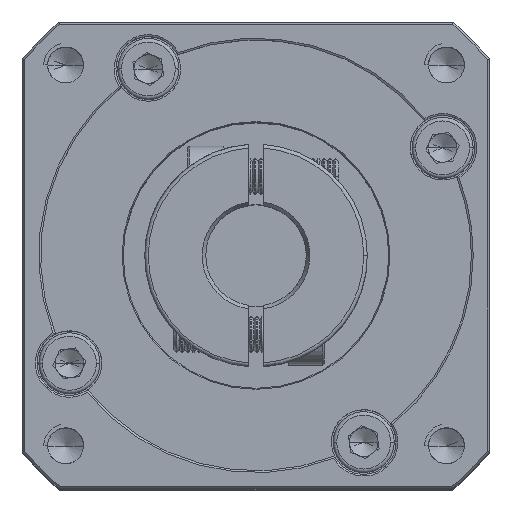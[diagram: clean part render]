
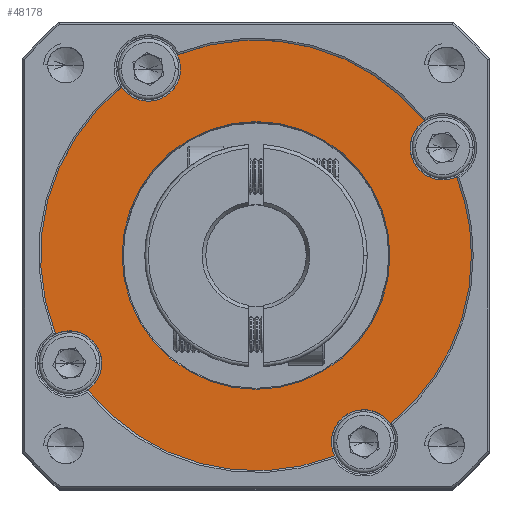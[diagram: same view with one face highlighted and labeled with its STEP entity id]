
A CAD part, top view. The second image highlights one B-rep face of the part: STEP entity #48178.
In plain terms, the highlighted planar face has unit normal (0, 0, 1).
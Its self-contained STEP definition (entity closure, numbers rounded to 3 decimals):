
#315 = AXIS2_PLACEMENT_3D ( 'NONE', #5596, #64716, #14099 ) ;
#1146 = PLANE ( 'NONE',  #24186 ) ;
#2623 = CARTESIAN_POINT ( 'NONE',  ( -59.673, 57.62, 14.19 ) ) ;
#3899 = CIRCLE ( 'NONE', #31454, 18.644 ) ;
#3986 = DIRECTION ( 'NONE',  ( 0., 0., -1. ) ) ;
#4777 = DIRECTION ( 'NONE',  ( 0., 0., 1. ) ) ;
#5302 = VERTEX_POINT ( 'NONE', #90229 ) ;
#5596 = CARTESIAN_POINT ( 'NONE',  ( -63.728, 55.668, 14.19 ) ) ;
#7574 = CIRCLE ( 'NONE', #10298, 30. ) ;
#9050 = CARTESIAN_POINT ( 'NONE',  ( -33.728, 3.707, 14.19 ) ) ;
#9093 = ORIENTED_EDGE ( 'NONE', *, *, #47894, .T. ) ;
#9635 = VERTEX_POINT ( 'NONE', #33609 ) ;
#9827 = EDGE_CURVE ( 'NONE', #85748, #46305, #3899, .T. ) ;
#10298 = AXIS2_PLACEMENT_3D ( 'NONE', #15279, #74352, #23820 ) ;
#10522 = DIRECTION ( 'NONE',  ( 0., 0., 1. ) ) ;
#12216 = ORIENTED_EDGE ( 'NONE', *, *, #50459, .T. ) ;
#13822 = CARTESIAN_POINT ( 'NONE',  ( -30.01, 6.243, 14.19 ) ) ;
#14099 = DIRECTION ( 'NONE',  ( 1., 0., 0. ) ) ;
#14183 = VERTEX_POINT ( 'NONE', #103329 ) ;
#14945 = VERTEX_POINT ( 'NONE', #29813 ) ;
#15279 = CARTESIAN_POINT ( 'NONE',  ( -48.728, 29.687, 14.19 ) ) ;
#17576 = DIRECTION ( 'NONE',  ( 1., 0., 0. ) ) ;
#17866 = AXIS2_PLACEMENT_3D ( 'NONE', #80978, #30499, #89469 ) ;
#18489 = AXIS2_PLACEMENT_3D ( 'NONE', #32862, #91792, #41408 ) ;
#18865 = DIRECTION ( 'NONE',  ( 0., 0., 1. ) ) ;
#19592 = DIRECTION ( 'NONE',  ( 0., 0., 1. ) ) ;
#21693 = EDGE_CURVE ( 'NONE', #5302, #99512, #35745, .T. ) ;
#21902 = CARTESIAN_POINT ( 'NONE',  ( -59.228, 55.668, 14.19 ) ) ;
#22052 = CIRCLE ( 'NONE', #55285, 4.5 ) ;
#22165 = CARTESIAN_POINT ( 'NONE',  ( -48.728, 29.687, 14.19 ) ) ;
#23590 = ORIENTED_EDGE ( 'NONE', *, *, #108561, .F. ) ;
#23820 = DIRECTION ( 'NONE',  ( 1., 0., 0. ) ) ;
#24186 = AXIS2_PLACEMENT_3D ( 'NONE', #35202, #94110, #43710 ) ;
#25310 = AXIS2_PLACEMENT_3D ( 'NONE', #61118, #10522, #69641 ) ;
#25584 = VERTEX_POINT ( 'NONE', #13822 ) ;
#27918 = VERTEX_POINT ( 'NONE', #76546 ) ;
#28916 = AXIS2_PLACEMENT_3D ( 'NONE', #9050, #68151, #17576 ) ;
#29813 = CARTESIAN_POINT ( 'NONE',  ( -20.796, 40.632, 14.19 ) ) ;
#30499 = DIRECTION ( 'NONE',  ( 0., 0., 1. ) ) ;
#30619 = DIRECTION ( 'NONE',  ( 1., 0., 0. ) ) ;
#30903 = EDGE_CURVE ( 'NONE', #60714, #62258, #77122, .T. ) ;
#31191 = AXIS2_PLACEMENT_3D ( 'NONE', #83948, #33461, #92368 ) ;
#31454 = AXIS2_PLACEMENT_3D ( 'NONE', #54594, #3986, #63086 ) ;
#32862 = CARTESIAN_POINT ( 'NONE',  ( -22.747, 44.687, 14.19 ) ) ;
#32979 = EDGE_CURVE ( 'NONE', #62258, #81610, #93426, .T. ) ;
#33156 = FACE_BOUND ( 'NONE', #39261, .T. ) ;
#33461 = DIRECTION ( 'NONE',  ( 0., 0., 1. ) ) ;
#33609 = CARTESIAN_POINT ( 'NONE',  ( -27.247, 44.687, 14.19 ) ) ;
#33699 = CARTESIAN_POINT ( 'NONE',  ( -67.372, 29.687, 14.19 ) ) ;
#35202 = CARTESIAN_POINT ( 'NONE',  ( -48.728, 29.687, 14.19 ) ) ;
#35745 = CIRCLE ( 'NONE', #17866, 4.5 ) ;
#39261 = EDGE_LOOP ( 'NONE', ( #109462, #9093 ) ) ;
#39504 = ORIENTED_EDGE ( 'NONE', *, *, #21693, .F. ) ;
#40994 = EDGE_LOOP ( 'NONE', ( #102192, #105453, #23590, #98739, #101137, #12216, #95385, #99035, #107753, #104352, #94884, #102576, #39504 ) ) ;
#41408 = DIRECTION ( 'NONE',  ( 1., 0., 0. ) ) ;
#41804 = CIRCLE ( 'NONE', #99536, 30. ) ;
#42241 = EDGE_CURVE ( 'NONE', #25584, #27918, #49803, .T. ) ;
#43710 = DIRECTION ( 'NONE',  ( 1., 0., 0. ) ) ;
#43942 = AXIS2_PLACEMENT_3D ( 'NONE', #99920, #49515, #108416 ) ;
#44089 = CIRCLE ( 'NONE', #77465, 30. ) ;
#45826 = EDGE_CURVE ( 'NONE', #64579, #5302, #87902, .T. ) ;
#46220 = DIRECTION ( 'NONE',  ( 0., 0., -1. ) ) ;
#46305 = VERTEX_POINT ( 'NONE', #33699 ) ;
#47894 = EDGE_CURVE ( 'NONE', #46305, #85748, #103022, .T. ) ;
#48178 = ADVANCED_FACE ( 'NONE', ( #33156, #55604 ), #1146, .T. ) ;
#48446 = CIRCLE ( 'NONE', #31191, 30. ) ;
#49136 = DIRECTION ( 'NONE',  ( 0., 0., 1. ) ) ;
#49515 = DIRECTION ( 'NONE',  ( 0., 0., 1. ) ) ;
#49803 = CIRCLE ( 'NONE', #43942, 4.5 ) ;
#50459 = EDGE_CURVE ( 'NONE', #92803, #14945, #41804, .T. ) ;
#51907 = EDGE_CURVE ( 'NONE', #9635, #14945, #66212, .T. ) ;
#52439 = CARTESIAN_POINT ( 'NONE',  ( -37.783, 1.755, 14.19 ) ) ;
#53071 = AXIS2_PLACEMENT_3D ( 'NONE', #99544, #49136, #108039 ) ;
#54594 = CARTESIAN_POINT ( 'NONE',  ( -48.728, 29.687, 14.19 ) ) ;
#55285 = AXIS2_PLACEMENT_3D ( 'NONE', #55395, #4777, #63868 ) ;
#55395 = CARTESIAN_POINT ( 'NONE',  ( -22.747, 44.687, 14.19 ) ) ;
#55604 = FACE_OUTER_BOUND ( 'NONE', #40994, .T. ) ;
#60714 = VERTEX_POINT ( 'NONE', #106392 ) ;
#61118 = CARTESIAN_POINT ( 'NONE',  ( -74.709, 14.687, 14.19 ) ) ;
#62258 = VERTEX_POINT ( 'NONE', #21902 ) ;
#63086 = DIRECTION ( 'NONE',  ( 1., 0., 0. ) ) ;
#63868 = DIRECTION ( 'NONE',  ( 1., 0., 0. ) ) ;
#64579 = VERTEX_POINT ( 'NONE', #71594 ) ;
#64716 = DIRECTION ( 'NONE',  ( 0., 0., 1. ) ) ;
#66212 = CIRCLE ( 'NONE', #18489, 4.5 ) ;
#68151 = DIRECTION ( 'NONE',  ( 0., 0., 1. ) ) ;
#68829 = AXIS2_PLACEMENT_3D ( 'NONE', #69452, #18865, #77897 ) ;
#69452 = CARTESIAN_POINT ( 'NONE',  ( -63.728, 55.668, 14.19 ) ) ;
#69558 = CARTESIAN_POINT ( 'NONE',  ( -18.728, 29.687, 14.19 ) ) ;
#69641 = DIRECTION ( 'NONE',  ( 1., 0., 0. ) ) ;
#70153 = CARTESIAN_POINT ( 'NONE',  ( -48.728, 29.687, 14.19 ) ) ;
#71563 = CARTESIAN_POINT ( 'NONE',  ( -30.083, 29.687, 14.19 ) ) ;
#71594 = CARTESIAN_POINT ( 'NONE',  ( -72.173, 10.97, 14.19 ) ) ;
#72598 = EDGE_CURVE ( 'NONE', #14183, #81610, #99980, .T. ) ;
#73562 = EDGE_CURVE ( 'NONE', #64579, #100220, #48446, .T. ) ;
#74352 = DIRECTION ( 'NONE',  ( 0., 0., 1. ) ) ;
#76546 = CARTESIAN_POINT ( 'NONE',  ( -38.228, 3.707, 14.19 ) ) ;
#77122 = CIRCLE ( 'NONE', #68829, 4.5 ) ;
#77465 = AXIS2_PLACEMENT_3D ( 'NONE', #22165, #81107, #30619 ) ;
#77897 = DIRECTION ( 'NONE',  ( 1., 0., 0. ) ) ;
#78579 = DIRECTION ( 'NONE',  ( 1., 0., 0. ) ) ;
#80978 = CARTESIAN_POINT ( 'NONE',  ( -74.709, 14.687, 14.19 ) ) ;
#81107 = DIRECTION ( 'NONE',  ( 0., 0., 1. ) ) ;
#81323 = AXIS2_PLACEMENT_3D ( 'NONE', #96622, #46220, #105100 ) ;
#81610 = VERTEX_POINT ( 'NONE', #2623 ) ;
#83836 = EDGE_CURVE ( 'NONE', #14183, #9635, #22052, .T. ) ;
#83948 = CARTESIAN_POINT ( 'NONE',  ( -48.728, 29.687, 14.19 ) ) ;
#84449 = CIRCLE ( 'NONE', #28916, 4.5 ) ;
#85748 = VERTEX_POINT ( 'NONE', #71563 ) ;
#87902 = CIRCLE ( 'NONE', #25310, 4.5 ) ;
#89469 = DIRECTION ( 'NONE',  ( 1., 0., 0. ) ) ;
#90229 = CARTESIAN_POINT ( 'NONE',  ( -70.209, 14.687, 14.19 ) ) ;
#91792 = DIRECTION ( 'NONE',  ( 0., 0., 1. ) ) ;
#92368 = DIRECTION ( 'NONE',  ( 1., 0., 0. ) ) ;
#92493 = EDGE_CURVE ( 'NONE', #25584, #92803, #7574, .T. ) ;
#92803 = VERTEX_POINT ( 'NONE', #69558 ) ;
#93013 = CARTESIAN_POINT ( 'NONE',  ( -76.66, 18.742, 14.19 ) ) ;
#93426 = CIRCLE ( 'NONE', #315, 4.5 ) ;
#94110 = DIRECTION ( 'NONE',  ( 0., 0., 1. ) ) ;
#94884 = ORIENTED_EDGE ( 'NONE', *, *, #30903, .F. ) ;
#95385 = ORIENTED_EDGE ( 'NONE', *, *, #51907, .F. ) ;
#96622 = CARTESIAN_POINT ( 'NONE',  ( -48.728, 29.687, 14.19 ) ) ;
#98739 = ORIENTED_EDGE ( 'NONE', *, *, #42241, .F. ) ;
#99035 = ORIENTED_EDGE ( 'NONE', *, *, #83836, .F. ) ;
#99512 = VERTEX_POINT ( 'NONE', #93013 ) ;
#99536 = AXIS2_PLACEMENT_3D ( 'NONE', #70153, #19592, #78579 ) ;
#99544 = CARTESIAN_POINT ( 'NONE',  ( -48.728, 29.687, 14.19 ) ) ;
#99920 = CARTESIAN_POINT ( 'NONE',  ( -33.728, 3.707, 14.19 ) ) ;
#99980 = CIRCLE ( 'NONE', #53071, 30. ) ;
#100220 = VERTEX_POINT ( 'NONE', #52439 ) ;
#101137 = ORIENTED_EDGE ( 'NONE', *, *, #92493, .T. ) ;
#102192 = ORIENTED_EDGE ( 'NONE', *, *, #45826, .F. ) ;
#102576 = ORIENTED_EDGE ( 'NONE', *, *, #103849, .T. ) ;
#103022 = CIRCLE ( 'NONE', #81323, 18.644 ) ;
#103329 = CARTESIAN_POINT ( 'NONE',  ( -25.283, 48.405, 14.19 ) ) ;
#103849 = EDGE_CURVE ( 'NONE', #60714, #99512, #44089, .T. ) ;
#104352 = ORIENTED_EDGE ( 'NONE', *, *, #32979, .F. ) ;
#105100 = DIRECTION ( 'NONE',  ( 1., 0., 0. ) ) ;
#105453 = ORIENTED_EDGE ( 'NONE', *, *, #73562, .T. ) ;
#106392 = CARTESIAN_POINT ( 'NONE',  ( -67.445, 53.132, 14.19 ) ) ;
#107753 = ORIENTED_EDGE ( 'NONE', *, *, #72598, .T. ) ;
#108039 = DIRECTION ( 'NONE',  ( 1., 0., 0. ) ) ;
#108416 = DIRECTION ( 'NONE',  ( 1., 0., 0. ) ) ;
#108561 = EDGE_CURVE ( 'NONE', #27918, #100220, #84449, .T. ) ;
#109462 = ORIENTED_EDGE ( 'NONE', *, *, #9827, .T. ) ;
